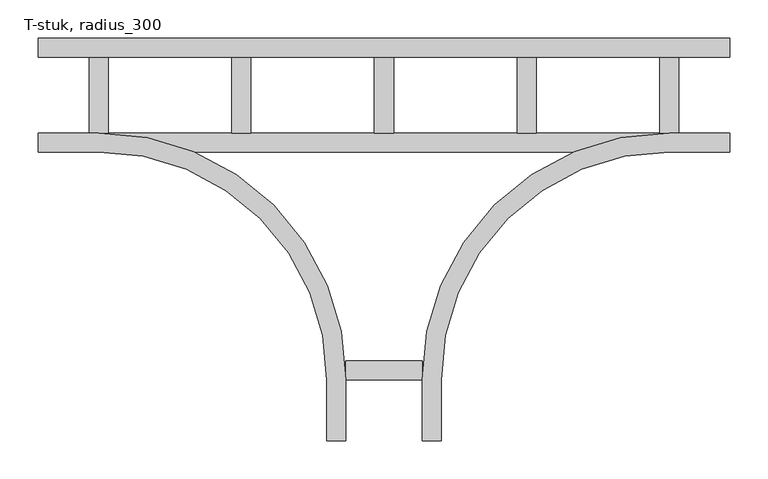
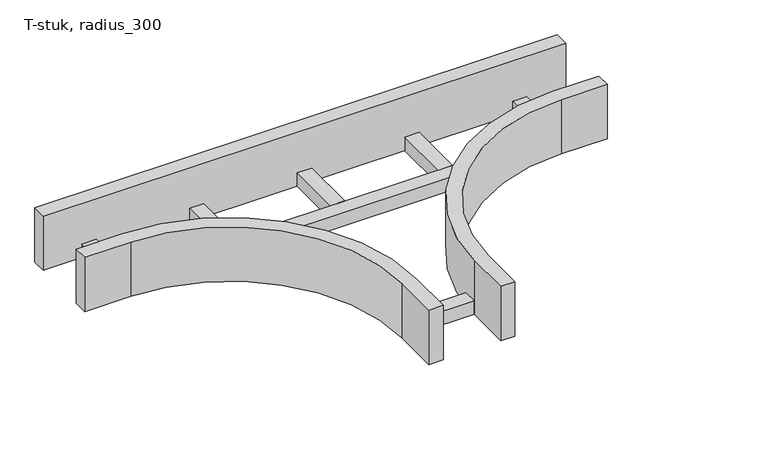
"""IFC4 building model written with IfcOpenShell, lengths in millimetres: cable carrier fitting geometry, 61_CTF_kabelgoot_open_Tsplitsing : T-stuk, radius_300."""

from ifc_helpers import new_model, si_unit, frame, origin, place, context, project, spatial, polyline, circle_curve, outline, extrude, faceted_brep, source, transform, mapped, element, save
from ifc_brep_helpers import plane_surface, cylinder_surface, revolved_surface, advanced_brep


def t_stuk_radius_300_37264464(model_context):
    return source(origin(), model_context, "Body", "SolidModel", [
        extrude(outline(polyline([(50.0, -350.0), (50.0, -375.0), (-50.0, -375.0), (-50.0, -350.0), (50.0, -350.0)])), frame((0.0, 0.0, -50.0), z_axis=(0.0, 0.0, 1.0), x_axis=(1.0, 0.0, 0.0)), (0.0, 0.0, 1.0), 25.0),
        extrude(outline(polyline([(387.5, 50.0), (387.5, -50.0), (362.5, -50.0), (362.5, 50.0), (387.5, 50.0)])), frame((0.0, 0.0, -50.0), z_axis=(0.0, 0.0, 1.0), x_axis=(1.0, 0.0, 0.0)), (0.0, 0.0, 1.0), 25.0),
        extrude(outline(polyline([(200.0, 50.0), (200.0, -50.0), (175.0, -50.0), (175.0, 50.0), (200.0, 50.0)])), frame((0.0, 0.0, -50.0), z_axis=(0.0, 0.0, 1.0), x_axis=(1.0, 0.0, 0.0)), (0.0, 0.0, 1.0), 25.0),
        extrude(outline(polyline([(12.5, 50.0), (12.5, -50.0), (-12.5, -50.0), (-12.5, 50.0), (12.5, 50.0)])), frame((0.0, 0.0, -50.0), z_axis=(0.0, 0.0, 1.0), x_axis=(1.0, 0.0, 0.0)), (0.0, 0.0, 1.0), 25.0),
        extrude(outline(polyline([(-175.0, 50.0), (-175.0, -50.0), (-200.0, -50.0), (-200.0, 50.0), (-175.0, 50.0)])), frame((0.0, 0.0, -50.0), z_axis=(0.0, 0.0, 1.0), x_axis=(1.0, 0.0, 0.0)), (0.0, 0.0, 1.0), 25.0),
        extrude(outline(polyline([(-362.5, 50.0), (-362.5, -50.0), (-387.5, -50.0), (-387.5, 50.0), (-362.5, 50.0)])), frame((0.0, 0.0, -50.0), z_axis=(0.0, 0.0, 1.0), x_axis=(1.0, 0.0, 0.0)), (0.0, 0.0, 1.0), 25.0),
        advanced_brep(
        [(-75.0, -375.0, 50.0), (-75.0, -455.0, 50.0), (-50.0, -455.0, 50.0), (-50.0, -375.0, 50.0), (-375.0, -50.0, 50.0), (-455.0, -50.0, 50.0), (-455.0, -75.0, 50.0), (-375.0, -75.0, 50.0), (75.0, -375.0, 50.0), (375.0, -75.0, 50.0), (455.0, -75.0, 50.0), (455.0, -50.0, 50.0), (375.0, -50.0, 50.0), (50.0, -375.0, 50.0), (50.0, -455.0, 50.0), (75.0, -455.0, 50.0), (-75.0, -375.0, -50.0), (-375.0, -75.0, -50.0), (-455.0, -75.0, -50.0), (-455.0, -50.0, -50.0), (455.0, -50.0, -50.0), (455.0, -75.0, -50.0), (375.0, -75.0, -50.0), (75.0, -375.0, -50.0), (75.0, -455.0, -50.0), (50.0, -455.0, -50.0), (50.0, -375.0, -50.0), (250.0, -75.0, -50.0), (-250.0, -75.0, -50.0), (-50.0, -375.0, -50.0), (-50.0, -455.0, -50.0), (-75.0, -455.0, -50.0), (-250.0, -75.0, -25.0), (-375.0, -50.0, -25.0), (375.0, -50.0, -25.0), (-375.0, -75.0, -25.0), (375.0, -75.0, -25.0), (250.0, -75.0, -25.0)],
        [
            (0, 1),
            (1, 2),
            (2, 3),
            (3, 4, circle_curve(frame((-375.0, -375.0, 50.0), z_axis=(0.0, 0.0, 1.0), x_axis=(1.0, 0.0, 0.0)), 325.0)),
            (4, 5),
            (5, 6),
            (6, 7),
            (7, 0, circle_curve(frame((-375.0, -375.0, 50.0), z_axis=(0.0, 0.0, -1.0), x_axis=(1.0, 0.0, 0.0)), 300.0)),
            (8, 9, circle_curve(frame((375.0, -375.0, 50.0), z_axis=(0.0, 0.0, -1.0), x_axis=(1.0, 0.0, 0.0)), 300.0)),
            (9, 10),
            (10, 11),
            (11, 12),
            (12, 13, circle_curve(frame((375.0, -375.0, 50.0), z_axis=(0.0, 0.0, 1.0), x_axis=(1.0, 0.0, 0.0)), 325.0)),
            (13, 14),
            (14, 15),
            (15, 8),
            (16, 17, circle_curve(frame((-375.0, -375.0, -50.0), z_axis=(0.0, 0.0, 1.0), x_axis=(1.0, 0.0, 0.0)), 300.0)),
            (17, 18),
            (18, 19),
            (19, 20),
            (20, 21),
            (21, 22),
            (22, 23, circle_curve(frame((375.0, -375.0, -50.0), z_axis=(0.0, 0.0, 1.0), x_axis=(1.0, 0.0, 0.0)), 300.0)),
            (23, 24),
            (24, 25),
            (25, 26),
            (26, 27, circle_curve(frame((375.0, -375.0, -50.0), z_axis=(0.0, 0.0, -1.0), x_axis=(1.0, 0.0, 0.0)), 325.0)),
            (27, 28),
            (28, 29, circle_curve(frame((-375.0, -375.0, -50.0), z_axis=(0.0, 0.0, -1.0), x_axis=(1.0, 0.0, 0.0)), 325.0)),
            (29, 30),
            (30, 31),
            (31, 16),
            (0, 16),
            (31, 1),
            (30, 2),
            (29, 3),
            (28, 32),
            (32, 33, circle_curve(frame((-375.0, -375.0, -25.0), z_axis=(0.0, 0.0, 1.0), x_axis=(1.0, 0.0, 0.0)), 325.0)),
            (33, 4),
            (33, 34),
            (34, 12),
            (11, 20),
            (19, 5),
            (18, 6),
            (17, 35),
            (35, 7),
            (8, 23),
            (22, 36),
            (36, 9),
            (21, 10),
            (34, 37, circle_curve(frame((375.0, -375.0, -25.0), z_axis=(0.0, 0.0, 1.0), x_axis=(1.0, 0.0, 0.0)), 325.0)),
            (37, 27),
            (26, 13),
            (25, 14),
            (24, 15),
            (32, 37),
        ],
        [
            plane_surface(frame((-75.0, -375.0, 50.0), z_axis=(0.0, 0.0, 1.0), x_axis=(0.0, -1.0, 0.0))),
            plane_surface(frame((-75.0, -375.0, -50.0), z_axis=(0.0, 0.0, -1.0), x_axis=(0.0, 1.0, 0.0))),
            plane_surface(frame((-75.0, -375.0, 50.0), z_axis=(-1.0, 0.0, 0.0), x_axis=(0.0, 0.0, -1.0))),
            plane_surface(frame((-75.0, -455.0, 50.0), z_axis=(0.0, -1.0, 0.0), x_axis=(0.0, 0.0, -1.0))),
            plane_surface(frame((-50.0, -455.0, 50.0), z_axis=(1.0, 0.0, 0.0), x_axis=(0.0, 0.0, -1.0))),
            cylinder_surface(frame((-375.0, -375.0, -50.0), z_axis=(0.0, 0.0, 1.0), x_axis=(1.0, 0.0, 0.0)), 325.0),
            plane_surface(frame((-375.0, -50.0, 50.0), z_axis=(0.0, 1.0, 0.0), x_axis=(0.0, 0.0, -1.0))),
            plane_surface(frame((-455.0, -50.0, 50.0), z_axis=(-1.0, 0.0, 0.0), x_axis=(0.0, 0.0, -1.0))),
            plane_surface(frame((-455.0, -75.0, 50.0), z_axis=(0.0, -1.0, 0.0), x_axis=(0.0, 0.0, -1.0))),
            revolved_surface(polyline([(-75.0, -375.0, -50.0), (-75.0, -375.0, 50.0)]), (-375.0, -375.0, -50.0), (0.0, 0.0, -1.0)),
            revolved_surface(polyline([(675.0, -375.0, -50.0), (675.0, -375.0, 50.0)]), (375.0, -375.0, 0.0), (0.0, 0.0, -1.0)),
            plane_surface(frame((375.0, -75.0, 50.0), z_axis=(0.0, -1.0, 0.0), x_axis=(0.0, 0.0, -1.0))),
            plane_surface(frame((455.0, -75.0, 50.0), z_axis=(1.0, 0.0, 0.0), x_axis=(0.0, 0.0, -1.0))),
            cylinder_surface(frame((375.0, -375.0, 0.0), z_axis=(0.0, 0.0, 1.0), x_axis=(1.0, 0.0, 0.0)), 325.0),
            plane_surface(frame((50.0, -375.0, 50.0), z_axis=(-1.0, 0.0, 0.0), x_axis=(0.0, 0.0, -1.0))),
            plane_surface(frame((50.0, -455.0, 50.0), z_axis=(0.0, -1.0, 0.0), x_axis=(0.0, 0.0, -1.0))),
            plane_surface(frame((75.0, -455.0, 50.0), z_axis=(1.0, 0.0, 0.0), x_axis=(0.0, 0.0, -1.0))),
            plane_surface(frame((-375.0, -50.0, -25.0), z_axis=(0.0, 0.0, 1.0), x_axis=(-1.0, 0.0, 0.0))),
            plane_surface(frame((-375.0, -75.0, -25.0), z_axis=(0.0, -1.0, 0.0), x_axis=(0.0, 0.0, -1.0))),
        ],
        [
            (0, [[1, 2, 3, 4, 5, 6, 7, 8]]),
            (0, [[9, 10, 11, 12, 13, 14, 15, 16]]),
            (1, [[17, 18, 19, 20, 21, 22, 23, 24, 25, 26, 27, 28, 29, 30, 31, 32]]),
            (2, [[-1, 33, -32, 34]]),
            (3, [[-2, -34, -31, 35]]),
            (4, [[-3, -35, -30, 36]]),
            (5, [[-4, -36, -29, 37, 38, 39]]),
            (6, [[-5, -39, 40, 41, -12, 42, -20, 43]]),
            (7, [[-6, -43, -19, 44]]),
            (8, [[-7, -44, -18, 45, 46]]),
            (9, [[-8, -46, -45, -17, -33]]),
            (10, [[-9, 47, -23, 48, 49]]),
            (11, [[-10, -49, -48, -22, 50]]),
            (12, [[-11, -50, -21, -42]]),
            (13, [[-13, -41, 51, 52, -27, 53]]),
            (14, [[-14, -53, -26, 54]]),
            (15, [[-15, -54, -25, 55]]),
            (16, [[-16, -55, -24, -47]]),
            (17, [[-40, -38, 56, -51]]),
            (18, [[-28, -52, -56, -37]]),
        ],
    ),
        faceted_brep([(455.0, 75.0, 50.0), (-455.0, 75.0, 50.0), (-455.0, 50.0, 50.0), (455.0, 50.0, 50.0), (455.0, 75.0, -50.0), (455.0, 50.0, -50.0), (-455.0, 50.0, -50.0), (-455.0, 75.0, -50.0)], [[[0, 1, 2, 3]], [[4, 5, 6, 7]], [[1, 0, 4, 7]], [[2, 1, 7, 6]], [[3, 2, 6, 5]], [[0, 3, 5, 4]]]),
    ])


if __name__ == "__main__":
    model = new_model("IFC4")
    model_context = context("Model", 3, world=origin())
    ifc_project = project(units=[si_unit("LENGTHUNIT", "METRE", prefix="MILLI")], contexts=[model_context])
    site = spatial("IfcSite", under=ifc_project)
    building = spatial("IfcBuilding", under=site)
    placement = place(None, origin())
    t_stuk_radius_300_shape = t_stuk_radius_300_37264464(model_context)
    element("IfcCableCarrierFitting", 1, ObjectType="61_CTF_kabelgoot_open_Tsplitsing : T-stuk, radius_300", at=placement, inside=building, context=model_context, shape_type="MappedRepresentation", body=[
        mapped(t_stuk_radius_300_shape, transform((0.0, 0.0, 0.0), x_axis=(1.0, 0.0, 0.0), y_axis=(0.0, 1.0, 0.0), z_axis=(0.0, 0.0, 1.0))),
    ])
    save(model, "model.ifc")
